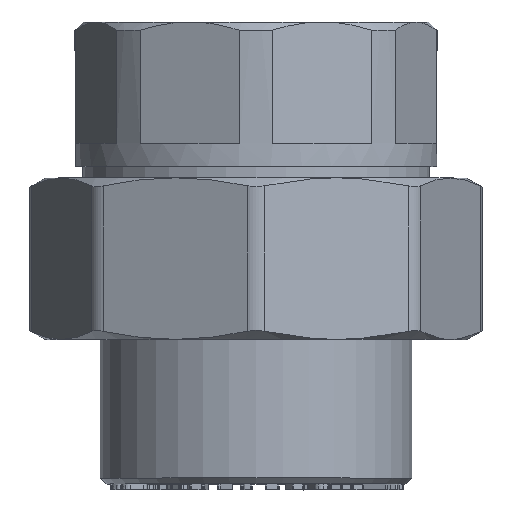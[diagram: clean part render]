
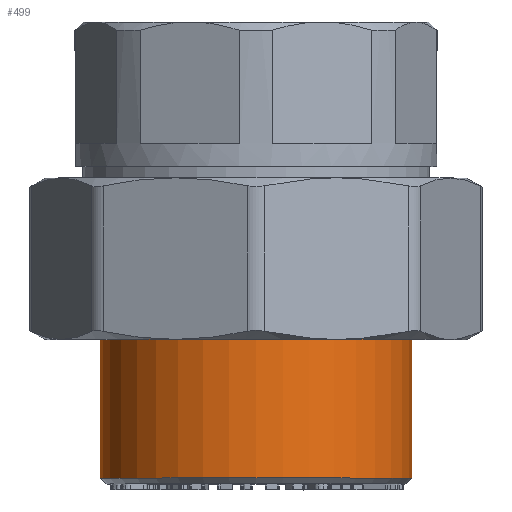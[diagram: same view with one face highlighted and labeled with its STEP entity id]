
A CAD part, top view. The second image highlights one B-rep face of the part: STEP entity #499.
In plain terms, the highlighted cylindrical face has radius 13.5 mm (diameter 27 mm), a full revolution.
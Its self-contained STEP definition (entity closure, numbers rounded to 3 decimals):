
#499=ADVANCED_FACE('',(#3719,#3721),#3723,.T.);
#3719=FACE_OUTER_BOUND('',#3720,.T.);
#3720=EDGE_LOOP('',(#8464));
#3721=FACE_OUTER_BOUND('',#3722,.T.);
#3722=EDGE_LOOP('',(#8465));
#3723=CYLINDRICAL_SURFACE('',#3724,13.5);
#3724=AXIS2_PLACEMENT_3D('',#3725,#3726,#3727);
#3725=CARTESIAN_POINT('',(0.,0.,0.));
#3726=DIRECTION('',(0.,1.,0.));
#3727=DIRECTION('',(-1.,0.,0.));
#8464=ORIENTED_EDGE('',*,*,#11751,.F.);
#8465=ORIENTED_EDGE('',*,*,#10902,.T.);
#10902=EDGE_CURVE('',#13308,#13308,#13309,.T.);
#11751=EDGE_CURVE('',#14583,#14583,#14584,.T.);
#13308=VERTEX_POINT('',#17904);
#13309=CIRCLE('',#17905,13.5);
#14583=VERTEX_POINT('',#20879);
#14584=CIRCLE('',#20880,13.5);
#17904=CARTESIAN_POINT('',(-13.5,0.5,0.));
#17905=AXIS2_PLACEMENT_3D('',#17906,#17907,#17908);
#17906=CARTESIAN_POINT('',(0.,0.5,0.));
#17907=DIRECTION('',(0.,1.,0.));
#17908=DIRECTION('',(-1.,0.,0.));
#20879=CARTESIAN_POINT('',(-13.5,14.5,0.));
#20880=AXIS2_PLACEMENT_3D('',#20881,#20882,#20883);
#20881=CARTESIAN_POINT('',(0.,14.5,0.));
#20882=DIRECTION('',(0.,1.,0.));
#20883=DIRECTION('',(-1.,0.,0.));
